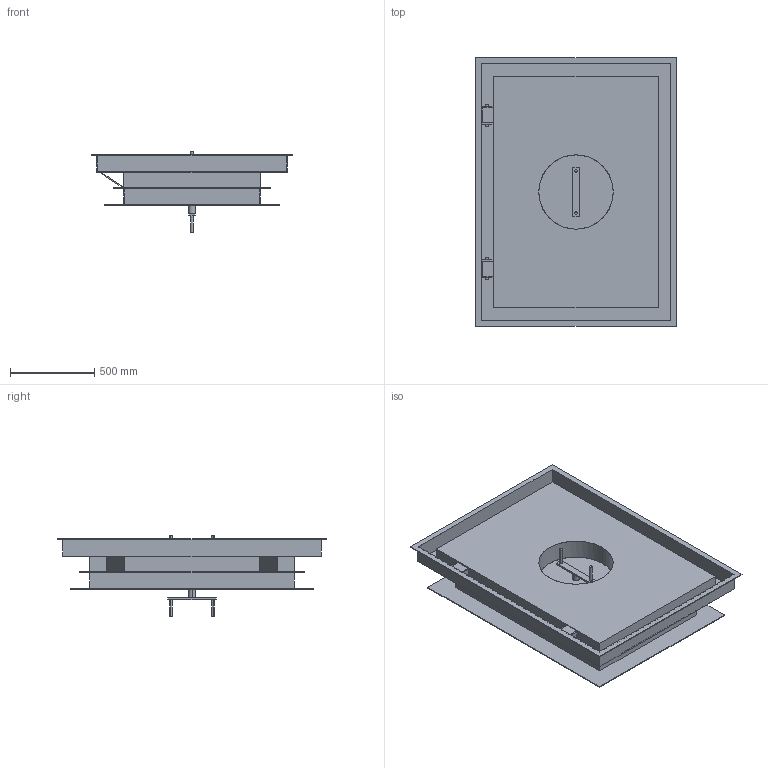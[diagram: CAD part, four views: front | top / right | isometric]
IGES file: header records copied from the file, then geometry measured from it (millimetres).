
Start section:  PTC IGES file: 52033751.igs
Global section: file name: 52033751.igs; native system: Creo Parametric by PTC Inc.; preprocessor: 2022162; author: ka; organization: Unknown; date: 20230224.113228; units: millimetre
Bounding box: 1190 x 1590 x 480 mm (x, y, z)
Surface area: 8924630.1 mm2 (no closed solid volume)
Topology: 0 solids, 0 shells, 134 faces, 652 edges, 652 vertices
Faces by surface type: bspline 112, revolution 22
